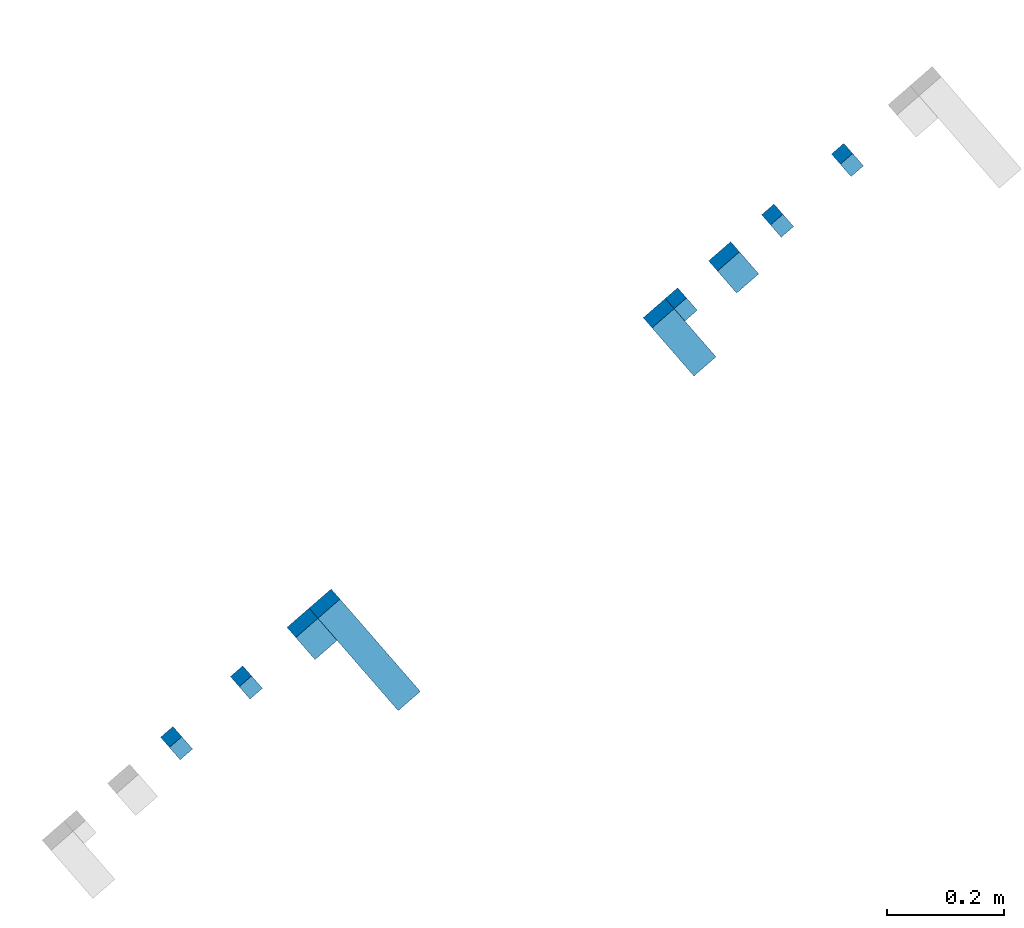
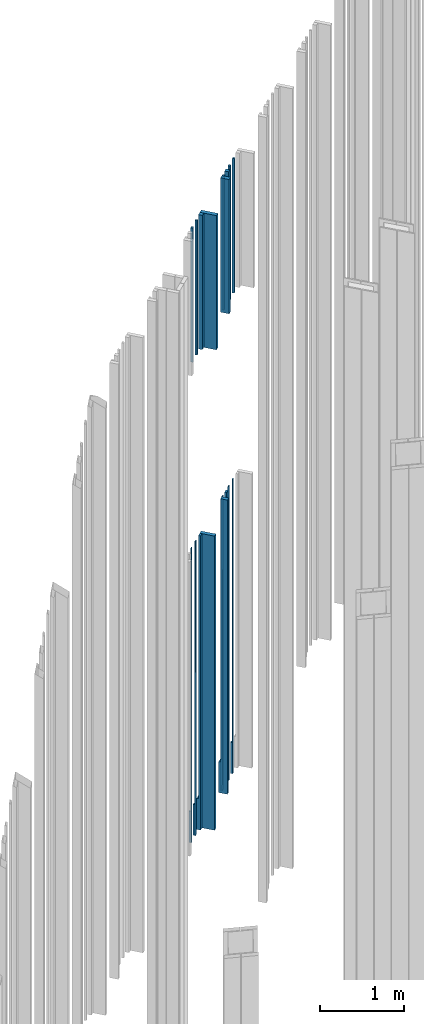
# One storey, part 257 of 390: 18 walls.
"""IFC2X3 building model written with IfcOpenShell, lengths in millimetres."""

from ifc_helpers import new_model, entity, si_unit, converted_unit, derived_unit, money_unit, direction, frame, origin_with_axes, place, context, subcontext, project, spatial, faceted_brep, material, type_object, element, save


model = new_model("IFC2X3")

# Units and contexts
model_context = context("Model", 3, precision=1e-05, world=origin_with_axes(), true_north=direction((0.0, 1.0)))
body_context = subcontext(model_context, "Body", "Model", "MODEL_VIEW")
ifc_project = project(units=[si_unit("LENGTHUNIT", "METRE", prefix="MILLI"), si_unit("AREAUNIT", "SQUARE_METRE"), si_unit("VOLUMEUNIT", "CUBIC_METRE"), converted_unit("PLANEANGLEUNIT", "DEGREE", entity("IfcPlaneAngleMeasure", 0.0174532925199), si_unit("PLANEANGLEUNIT", "RADIAN"), dimensions=[0, 0, 0, 0, 0, 0, 0]), si_unit("SOLIDANGLEUNIT", "STERADIAN"), money_unit("EUR"), converted_unit("TIMEUNIT", "Year", entity("IfcTimeMeasure", 31556926.0), si_unit("TIMEUNIT", "SECOND"), dimensions=[0, 0, 1, 0, 0, 0, 0]), si_unit("MASSUNIT", "GRAM", prefix="KILO"), si_unit("THERMODYNAMICTEMPERATUREUNIT", "DEGREE_CELSIUS"), si_unit("LUMINOUSINTENSITYUNIT", "LUMEN"), si_unit("ENERGYUNIT", "JOULE", prefix="MEGA"), derived_unit("THERMALCONDUCTANCEUNIT", [(si_unit("POWERUNIT", "WATT"), 1), (si_unit("LENGTHUNIT", "METRE"), -1), (si_unit("THERMODYNAMICTEMPERATUREUNIT", "KELVIN"), -1)]), derived_unit("SPECIFICHEATCAPACITYUNIT", [(si_unit("ENERGYUNIT", "JOULE"), 1), (si_unit("MASSUNIT", "GRAM", prefix="KILO"), -1), (si_unit("THERMODYNAMICTEMPERATUREUNIT", "KELVIN"), -1)]), derived_unit("MASSDENSITYUNIT", [(si_unit("MASSUNIT", "GRAM", prefix="KILO"), 1), (si_unit("VOLUMEUNIT", "CUBIC_METRE"), -1)])], contexts=[model_context])

# Site, building, storey
site_placement = place(None, origin_with_axes())
site = spatial("IfcSite", under=ifc_project, at=site_placement, Name="Site", CompositionType="ELEMENT")
building_placement = place(site_placement, origin_with_axes())
building = spatial("IfcBuilding", under=site, at=building_placement, Name="Building", CompositionType="ELEMENT")
storey_placement = place(building_placement, origin_with_axes())
storey = spatial("IfcBuildingStorey", under=building, at=storey_placement, Name="1 korrus", CompositionType="ELEMENT", Elevation=0.0)

# Walls
ifc_material = material(Name="Site specified")
wall_type = type_object("IfcWallType", Name="Puitfassaadi ribistik", PredefinedType="NOTDEFINED")
wall_1_placement = place(storey_placement, frame((164261.664429, 87421.103077, 7915.0), z_axis=(0.0, 0.0, 1.0), x_axis=(-0.754709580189, -0.65605902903, 0.0)))
element("IfcWall", 1, at=wall_1_placement, inside=storey, type_object=wall_type, material=ifc_material, Name="Site specified", context=body_context, shape_type="Brep", body=[
    faceted_brep([(-25.0, -25.0, 1950.0), (-25.0, -25.0, 0.0), (25.0, -25.0, 0.0), (25.0, -25.0, 1950.0), (-25.0, 25.0, 1950.0), (-25.0, 25.0, 0.0), (25.0, 25.0, 0.0), (25.0, 25.0, 1950.0)], [[[0, 1, 2, 3]], [[4, 5, 1, 0]], [[2, 1, 5, 6]], [[3, 2, 6, 7]], [[4, 0, 3, 7]], [[7, 6, 5, 4]]]),
])
wall_2_placement = place(storey_placement, frame((165160.844836, 88247.7991196, 935.0), z_axis=(0.0, 0.0, 1.0), x_axis=(-0.754709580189, -0.65605902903, 0.0)))
element("IfcWall", 2, at=wall_2_placement, inside=storey, type_object=wall_type, material=ifc_material, Name="Site specified", context=body_context, shape_type="Brep", body=[
    faceted_brep([(-14.0, -14.0, 0.0), (-14.0, -14.0, 450.0), (-14.0, 8.99999894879, 450.0), (-14.0, 8.99999991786, 4271.0), (-14.0, 14.0, 4271.0), (-14.0, 14.0, 0.0), (14.0, -14.0, 0.0), (14.0, -14.0, 450.0), (14.0, 8.99999894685, 450.0), (14.0, 8.99999991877, 4271.0), (14.0, 14.0, 4271.0), (14.0, 14.0, 0.0)], [[[0, 1, 2, 3, 4, 5]], [[6, 7, 1, 0]], [[8, 2, 1, 7]], [[9, 3, 2, 8]], [[4, 3, 9, 10]], [[4, 10, 11, 5]], [[11, 6, 0, 5]], [[8, 7, 6, 11, 10, 9]]]),
])
wall_3_placement = place(storey_placement, frame((164966.554028, 88064.3295534, 935.0), z_axis=(0.0, 0.0, 1.0), x_axis=(-0.754709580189, -0.65605902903, 0.0)))
element("IfcWall", 3, at=wall_3_placement, inside=storey, type_object=wall_type, material=ifc_material, Name="Site specified", context=body_context, shape_type="Brep", body=[
    faceted_brep([(-25.0, -25.0, 0.0), (-25.0, -25.0, 450.0), (-25.0, -2.0000010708, 450.0), (-25.0, -2.00000007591, 4271.0), (-25.0, 25.0, 4271.0), (-25.0, 25.0, 0.0), (25.0, -25.0, 0.0), (25.0, -25.0, 450.0), (25.0, -2.00000107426, 450.0), (25.0, -2.00000007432, 4271.0), (25.0, 25.0, 4271.0), (25.0, 25.0, 0.0)], [[[0, 1, 2, 3, 4, 5]], [[6, 7, 1, 0]], [[8, 2, 1, 7]], [[9, 3, 2, 8]], [[4, 3, 9, 10]], [[4, 10, 11, 5]], [[11, 6, 0, 5]], [[8, 7, 6, 11, 10, 9]]]),
])
wall_4_placement = place(storey_placement, frame((165041.600722, 88144.141793, 935.0), z_axis=(0.0, 0.0, 1.0), x_axis=(-0.754709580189, -0.65605902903, 0.0)))
element("IfcWall", 4, at=wall_4_placement, inside=storey, type_object=wall_type, material=ifc_material, Name="Site specified", context=body_context, shape_type="Brep", body=[
    faceted_brep([(-14.0, -14.0, 0.0), (-14.0, -14.0, 450.0), (-14.0, 8.99999893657, 450.0), (-14.0, 8.99999992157, 4271.0), (-14.0, 14.0, 4271.0), (-14.0, 14.0, 0.0), (14.0, -14.0, 0.0), (14.0, -14.0, 450.0), (14.0, 8.99999893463, 450.0), (14.0, 8.99999992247, 4271.0), (14.0, 14.0, 4271.0), (14.0, 14.0, 0.0)], [[[0, 1, 2, 3, 4, 5]], [[6, 7, 1, 0]], [[8, 2, 1, 7]], [[9, 3, 2, 8]], [[4, 3, 9, 10]], [[4, 10, 11, 5]], [[11, 6, 0, 5]], [[8, 7, 6, 11, 10, 9]]]),
])
wall_5_placement = place(storey_placement, frame((164877.088261, 88001.1332935, 935.0), z_axis=(0.0, 0.0, 1.0), x_axis=(-0.754709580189, -0.65605902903, 0.0)))
element("IfcWall", 5, at=wall_5_placement, inside=storey, type_object=wall_type, material=ifc_material, Name="Site specified", context=body_context, shape_type="Brep", body=[
    faceted_brep([(-14.0, -14.0, 0.0), (-14.0, -14.0, 450.0), (-14.0, 9.00000024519, 450.0), (-14.0, 9.00000125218, 4271.0), (-14.0, 14.0, 4271.0), (-14.0, 14.0, 0.0), (14.0, -14.0, 0.0), (14.0, -14.0, 450.0), (14.0, 9.00000024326, 450.0), (14.0, 9.00000125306, 4271.0), (14.0, 14.0, 4271.0), (14.0, 14.0, 0.0)], [[[0, 1, 2, 3, 4, 5]], [[6, 7, 1, 0]], [[8, 2, 1, 7]], [[9, 3, 2, 8]], [[4, 3, 9, 10]], [[4, 10, 11, 5]], [[11, 6, 0, 5]], [[8, 7, 6, 11, 10, 9]]]),
])
wall_6_placement = place(storey_placement, frame((164874.224978, 87944.9812534, 935.0), z_axis=(0.0, 0.0, 1.0), x_axis=(-0.754709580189, -0.65605902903, 0.0)))
element("IfcWall", 6, at=wall_6_placement, inside=storey, type_object=wall_type, material=ifc_material, Name="Site specified", context=body_context, shape_type="Brep", body=[
    faceted_brep([(-25.0, -54.5, 0.0), (-25.0, -54.5, 450.0), (-25.0, -31.4999997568, 450.0), (-25.0, -31.499998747, 4271.0), (-25.0, 54.5, 4271.0), (-25.0, 54.5, 0.0), (25.0, -54.5, 0.0), (25.0, -54.5, 450.0), (25.0, -31.4999997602, 450.0), (25.0, -31.4999987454, 4271.0), (25.0, 54.5, 4271.0), (25.0, 54.5, 0.0)], [[[0, 1, 2, 3, 4, 5]], [[6, 7, 1, 0]], [[8, 2, 1, 7]], [[9, 3, 2, 8]], [[4, 3, 9, 10]], [[4, 10, 11, 5]], [[11, 6, 0, 5]], [[8, 7, 6, 11, 10, 9]]]),
])
for number, where, z_axis, x_axis, name in (
    (7, (164030.285051, 87234.5431935, 7915.0), (0.0, 0.0, 1.0), (-0.754709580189, -0.65605902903, 0.0), "Site specified"),
    (8, (164149.529164, 87338.2005201, 7915.0), (0.0, 0.0, 1.0), (-0.754709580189, -0.65605902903, 0.0), "Site specified"),
):
    element("IfcWall", number, at=place(storey_placement, frame(where, z_axis=z_axis, x_axis=x_axis)), inside=storey, type_object=wall_type, material=ifc_material, Name=name, context=body_context, shape_type="Brep", body=[
        faceted_brep([(-14.0, -14.0, 1950.0), (-14.0, -14.0, 0.0), (14.0, -14.0, 0.0), (14.0, -14.0, 1950.0), (-14.0, 14.0, 1950.0), (-14.0, 14.0, 0.0), (14.0, 14.0, 0.0), (14.0, 14.0, 1950.0)], [[[0, 1, 2, 3]], [[4, 5, 1, 0]], [[2, 1, 5, 6]], [[3, 2, 6, 7]], [[4, 0, 3, 7]], [[7, 6, 5, 4]]]),
    ])
wall_7_placement = place(storey_placement, frame((164246.575072, 87438.4613971, 935.0), z_axis=(0.0, 0.0, 1.0), x_axis=(-0.754709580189, -0.65605902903, 0.0)))
element("IfcWall", 9, at=wall_7_placement, inside=storey, type_object=wall_type, material=ifc_material, Name="Site specified", context=body_context, shape_type="Brep", body=[
    faceted_brep([(-25.0, -25.0, 0.0), (-25.0, -25.0, 450.0), (-25.0, -1.99999991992, 450.0), (-25.0, -1.99999882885, 4271.0), (-25.0, 25.0, 4271.0), (-25.0, 25.0, 0.0), (25.0, -25.0, 0.0), (25.0, -25.0, 450.0), (25.0, -1.99999992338, 450.0), (25.0, -1.99999882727, 4271.0), (25.0, 25.0, 4271.0), (25.0, 25.0, 0.0)], [[[0, 1, 2, 3, 4, 5]], [[6, 7, 1, 0]], [[8, 2, 1, 7]], [[9, 3, 2, 8]], [[4, 3, 9, 10]], [[4, 10, 11, 5]], [[11, 6, 0, 5]], [[8, 7, 6, 11, 10, 9]]]),
])
wall_8_placement = place(storey_placement, frame((164336.467243, 87411.2649369, 935.0), z_axis=(0.0, 0.0, 1.0), x_axis=(-0.754709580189, -0.65605902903, 0.0)))
element("IfcWall", 10, at=wall_8_placement, inside=storey, type_object=wall_type, material=ifc_material, Name="Site specified", context=body_context, shape_type="Brep", body=[
    faceted_brep([(-25.0, -104.5, 0.0), (-25.0, -104.5, 450.0), (-25.0, -81.4999999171, 450.0), (-25.0, -81.4999988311, 4271.0), (-25.0, 104.5, 4271.0), (-25.0, 104.5, 0.0), (25.0, -104.5, 0.0), (25.0, -104.5, 450.0), (25.0, -81.4999999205, 450.0), (25.0, -81.4999988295, 4271.0), (25.0, 104.5, 4271.0), (25.0, 104.5, 0.0)], [[[0, 1, 2, 3, 4, 5]], [[6, 7, 1, 0]], [[8, 2, 1, 7]], [[9, 3, 2, 8]], [[4, 3, 9, 10]], [[4, 10, 11, 5]], [[11, 6, 0, 5]], [[8, 7, 6, 11, 10, 9]]]),
])
wall_9_placement = place(storey_placement, frame((164015.195693, 87251.9015136, 935.0), z_axis=(0.0, 0.0, 1.0), x_axis=(-0.754709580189, -0.65605902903, 0.0)))
element("IfcWall", 11, at=wall_9_placement, inside=storey, type_object=wall_type, material=ifc_material, Name="Site specified", context=body_context, shape_type="Brep", body=[
    faceted_brep([(-14.0, -14.0, 0.0), (-14.0, -14.0, 450.0), (-14.0, 8.99999893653, 450.0), (-14.0, 9.00000005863, 4271.0), (-14.0, 14.0, 4271.0), (-14.0, 14.0, 0.0), (14.0, -14.0, 0.0), (14.0, -14.0, 450.0), (14.0, 8.99999893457, 450.0), (14.0, 9.00000005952, 4271.0), (14.0, 14.0, 4271.0), (14.0, 14.0, 0.0)], [[[0, 1, 2, 3, 4, 5]], [[6, 7, 1, 0]], [[8, 2, 1, 7]], [[9, 3, 2, 8]], [[4, 3, 9, 10]], [[4, 10, 11, 5]], [[11, 6, 0, 5]], [[8, 7, 6, 11, 10, 9]]]),
])
wall_10_placement = place(storey_placement, frame((164134.439807, 87355.5588401, 935.0), z_axis=(0.0, 0.0, 1.0), x_axis=(-0.754709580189, -0.65605902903, 0.0)))
element("IfcWall", 12, at=wall_10_placement, inside=storey, type_object=wall_type, material=ifc_material, Name="Site specified", context=body_context, shape_type="Brep", body=[
    faceted_brep([(-14.0, -14.0, 0.0), (-14.0, -14.0, 450.0), (-14.0, 8.99999894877, 450.0), (-14.0, 9.00000005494, 4271.0), (-14.0, 14.0, 4271.0), (-14.0, 14.0, 0.0), (14.0, -14.0, 0.0), (14.0, -14.0, 450.0), (14.0, 8.99999894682, 450.0), (14.0, 9.00000005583, 4271.0), (14.0, 14.0, 4271.0), (14.0, 14.0, 0.0)], [[[0, 1, 2, 3, 4, 5]], [[6, 7, 1, 0]], [[8, 2, 1, 7]], [[9, 3, 2, 8]], [[4, 3, 9, 10]], [[4, 10, 11, 5]], [[11, 6, 0, 5]], [[8, 7, 6, 11, 10, 9]]]),
])
wall_11_placement = place(storey_placement, frame((165175.934194, 88230.4407995, 7915.0), z_axis=(0.0, 0.0, 1.0), x_axis=(-0.754709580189, -0.65605902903, 0.0)))
element("IfcWall", 13, at=wall_11_placement, inside=storey, type_object=wall_type, material=ifc_material, Name="Site specified", context=body_context, shape_type="Brep", body=[
    faceted_brep([(-14.0, -14.0, 1950.0), (-14.0, -14.0, 0.0), (14.0, -14.0, 0.0), (14.0, -14.0, 1950.0), (-14.0, 14.0, 1950.0), (-14.0, 14.0, 0.0), (14.0, 14.0, 0.0), (14.0, 14.0, 1950.0)], [[[0, 1, 2, 3]], [[4, 5, 1, 0]], [[2, 1, 5, 6]], [[3, 2, 6, 7]], [[4, 0, 3, 7]], [[7, 6, 5, 4]]]),
])
wall_12_placement = place(storey_placement, frame((164981.643385, 88046.9712333, 7915.0), z_axis=(0.0, 0.0, 1.0), x_axis=(-0.754709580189, -0.65605902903, 0.0)))
element("IfcWall", 14, at=wall_12_placement, inside=storey, type_object=wall_type, material=ifc_material, Name="Site specified", context=body_context, shape_type="Brep", body=[
    faceted_brep([(-25.0, -25.0, 1950.0), (-25.0, -25.0, 0.0), (25.0, -25.0, 0.0), (25.0, -25.0, 1950.0), (-25.0, 25.0, 1950.0), (-25.0, 25.0, 0.0), (25.0, 25.0, 0.0), (25.0, 25.0, 1950.0)], [[[0, 1, 2, 3]], [[4, 5, 1, 0]], [[2, 1, 5, 6]], [[3, 2, 6, 7]], [[4, 0, 3, 7]], [[7, 6, 5, 4]]]),
])
wall_13_placement = place(storey_placement, frame((164351.556601, 87393.9066168, 7915.0), z_axis=(0.0, 0.0, 1.0), x_axis=(-0.754709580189, -0.65605902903, 0.0)))
element("IfcWall", 15, at=wall_13_placement, inside=storey, type_object=wall_type, material=ifc_material, Name="Site specified", context=body_context, shape_type="Brep", body=[
    faceted_brep([(-25.0, -104.5, 1950.0), (-25.0, -104.5, 0.0), (25.0, -104.5, 0.0), (25.0, -104.5, 1950.0), (-25.0, 104.5, 1950.0), (-25.0, 104.5, 0.0), (25.0, 104.5, 0.0), (25.0, 104.5, 1950.0)], [[[0, 1, 2, 3]], [[4, 5, 1, 0]], [[2, 1, 5, 6]], [[3, 2, 6, 7]], [[4, 0, 3, 7]], [[7, 6, 5, 4]]]),
])
for number, where, z_axis, x_axis, name in (
    (16, (165056.69008, 88126.7834729, 7915.0), (0.0, 0.0, 1.0), (-0.754709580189, -0.65605902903, 0.0), "Site specified"),
    (17, (164892.177618, 87983.7749734, 7915.0), (0.0, 0.0, 1.0), (-0.754709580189, -0.65605902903, 0.0), "Site specified"),
):
    element("IfcWall", number, at=place(storey_placement, frame(where, z_axis=z_axis, x_axis=x_axis)), inside=storey, type_object=wall_type, material=ifc_material, Name=name, context=body_context, shape_type="Brep", body=[
        faceted_brep([(-14.0, -14.0, 1950.0), (-14.0, -14.0, 0.0), (14.0, -14.0, 0.0), (14.0, -14.0, 1950.0), (-14.0, 14.0, 1950.0), (-14.0, 14.0, 0.0), (14.0, 14.0, 0.0), (14.0, 14.0, 1950.0)], [[[0, 1, 2, 3]], [[4, 5, 1, 0]], [[2, 1, 5, 6]], [[3, 2, 6, 7]], [[4, 0, 3, 7]], [[7, 6, 5, 4]]]),
    ])
wall_14_placement = place(storey_placement, frame((164889.314335, 87927.6229333, 7915.0), z_axis=(0.0, 0.0, 1.0), x_axis=(-0.754709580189, -0.65605902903, 0.0)))
element("IfcWall", 18, at=wall_14_placement, inside=storey, type_object=wall_type, material=ifc_material, Name="Site specified", context=body_context, shape_type="Brep", body=[
    faceted_brep([(-25.0, -54.5, 1950.0), (-25.0, -54.5, 0.0), (25.0, -54.5, 0.0), (25.0, -54.5, 1950.0), (-25.0, 54.5, 1950.0), (-25.0, 54.5, 0.0), (25.0, 54.5, 0.0), (25.0, 54.5, 1950.0)], [[[0, 1, 2, 3]], [[4, 5, 1, 0]], [[2, 1, 5, 6]], [[3, 2, 6, 7]], [[4, 0, 3, 7]], [[7, 6, 5, 4]]]),
])

save(model, "model.ifc")
